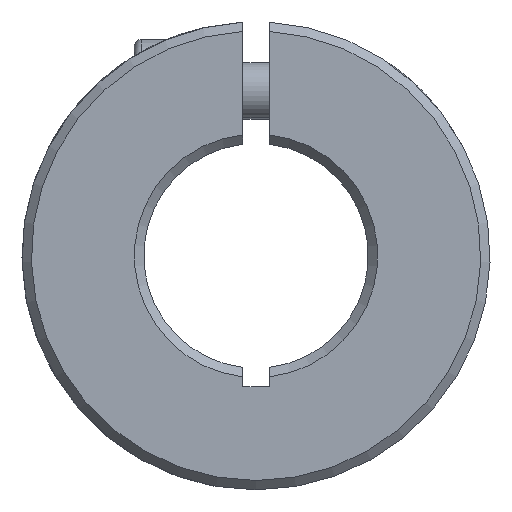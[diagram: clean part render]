
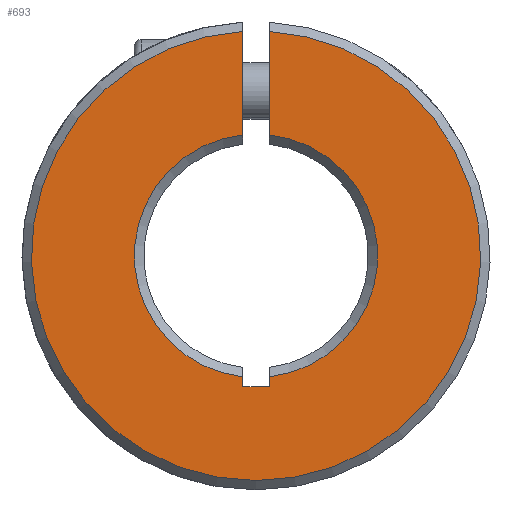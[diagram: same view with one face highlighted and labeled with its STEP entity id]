
A CAD part, front view. The second image highlights one B-rep face of the part: STEP entity #693.
In plain terms, the highlighted planar face has unit normal (0, -1, 0).
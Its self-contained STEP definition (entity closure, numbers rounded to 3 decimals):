
#33 = CARTESIAN_POINT ( 'NONE',  ( -0.7, 0.25, 6.462 ) ) ;
#72 = VECTOR ( 'NONE', #2038, 1000. ) ;
#92 = FACE_OUTER_BOUND ( 'NONE', #1692, .T. ) ;
#100 = VERTEX_POINT ( 'NONE', #2824 ) ;
#120 = CARTESIAN_POINT ( 'NONE',  ( 12.5, 0.25, -50. ) ) ;
#201 = CARTESIAN_POINT ( 'NONE',  ( 0.7, 0.25, -6.462 ) ) ;
#228 = EDGE_CURVE ( 'NONE', #100, #2122, #2374, .T. ) ;
#255 = DIRECTION ( 'NONE',  ( 0., 0., 1. ) ) ;
#350 = CARTESIAN_POINT ( 'NONE',  ( 0.7, 0.25, -7. ) ) ;
#368 = DIRECTION ( 'NONE',  ( 0., 1., 0. ) ) ;
#404 = CARTESIAN_POINT ( 'NONE',  ( -0.7, 0.25, -7. ) ) ;
#496 = CARTESIAN_POINT ( 'NONE',  ( 0.7, 0.25, -7. ) ) ;
#593 = AXIS2_PLACEMENT_3D ( 'NONE', #4902, #3301, #775 ) ;
#613 = AXIS2_PLACEMENT_3D ( 'NONE', #120, #1724, #3398 ) ;
#693 = ADVANCED_FACE ( 'NONE', ( #92 ), #4609, .F. ) ;
#759 = ORIENTED_EDGE ( 'NONE', *, *, #1978, .F. ) ;
#775 = DIRECTION ( 'NONE',  ( 0., 0., 1. ) ) ;
#1117 = ORIENTED_EDGE ( 'NONE', *, *, #4638, .F. ) ;
#1215 = ORIENTED_EDGE ( 'NONE', *, *, #1418, .T. ) ;
#1310 = ORIENTED_EDGE ( 'NONE', *, *, #1839, .F. ) ;
#1345 = AXIS2_PLACEMENT_3D ( 'NONE', #2315, #368, #4828 ) ;
#1349 = LINE ( 'NONE', #3065, #3456 ) ;
#1418 = EDGE_CURVE ( 'NONE', #3151, #2122, #1821, .T. ) ;
#1464 = DIRECTION ( 'NONE',  ( 0., 0., -1. ) ) ;
#1492 = ORIENTED_EDGE ( 'NONE', *, *, #5226, .T. ) ;
#1551 = VERTEX_POINT ( 'NONE', #33 ) ;
#1692 = EDGE_LOOP ( 'NONE', ( #5001, #4012, #1117, #1310, #759, #1492, #2000, #1215 ) ) ;
#1724 = DIRECTION ( 'NONE',  ( 0., 1., 0. ) ) ;
#1774 = VERTEX_POINT ( 'NONE', #3326 ) ;
#1794 = CARTESIAN_POINT ( 'NONE',  ( -0.7, 0.25, 11.98 ) ) ;
#1821 = CIRCLE ( 'NONE', #2247, 12. ) ;
#1839 = EDGE_CURVE ( 'NONE', #5138, #1774, #3361, .T. ) ;
#1880 = CARTESIAN_POINT ( 'NONE',  ( -0.7, 0.25, -7. ) ) ;
#1978 = EDGE_CURVE ( 'NONE', #4581, #5138, #3599, .T. ) ;
#2000 = ORIENTED_EDGE ( 'NONE', *, *, #5111, .F. ) ;
#2038 = DIRECTION ( 'NONE',  ( 0., 0., -1. ) ) ;
#2122 = VERTEX_POINT ( 'NONE', #2488 ) ;
#2247 = AXIS2_PLACEMENT_3D ( 'NONE', #4724, #5131, #255 ) ;
#2280 = VERTEX_POINT ( 'NONE', #201 ) ;
#2315 = CARTESIAN_POINT ( 'NONE',  ( 0., 0.25, 0. ) ) ;
#2374 = LINE ( 'NONE', #350, #3498 ) ;
#2488 = CARTESIAN_POINT ( 'NONE',  ( 0.7, 0.25, 11.98 ) ) ;
#2612 = CARTESIAN_POINT ( 'NONE',  ( -0.7, 0.25, -6.462 ) ) ;
#2824 = CARTESIAN_POINT ( 'NONE',  ( 0.7, 0.25, 6.462 ) ) ;
#2922 = VECTOR ( 'NONE', #3394, 1000. ) ;
#3065 = CARTESIAN_POINT ( 'NONE',  ( 0.7, 0.25, -7. ) ) ;
#3151 = VERTEX_POINT ( 'NONE', #1794 ) ;
#3301 = DIRECTION ( 'NONE',  ( 0., 1., 0. ) ) ;
#3326 = CARTESIAN_POINT ( 'NONE',  ( 0.7, 0.25, -7. ) ) ;
#3361 = LINE ( 'NONE', #496, #2922 ) ;
#3394 = DIRECTION ( 'NONE',  ( 1., 0., 0. ) ) ;
#3398 = DIRECTION ( 'NONE',  ( 0., 0., 1. ) ) ;
#3456 = VECTOR ( 'NONE', #4721, 1000. ) ;
#3498 = VECTOR ( 'NONE', #4022, 1000. ) ;
#3599 = LINE ( 'NONE', #3995, #3834 ) ;
#3832 = EDGE_CURVE ( 'NONE', #100, #2280, #3864, .T. ) ;
#3834 = VECTOR ( 'NONE', #1464, 1000. ) ;
#3864 = CIRCLE ( 'NONE', #1345, 6.5 ) ;
#3995 = CARTESIAN_POINT ( 'NONE',  ( -0.7, 0.25, -7. ) ) ;
#4012 = ORIENTED_EDGE ( 'NONE', *, *, #3832, .T. ) ;
#4022 = DIRECTION ( 'NONE',  ( 0., 0., 1. ) ) ;
#4106 = LINE ( 'NONE', #404, #72 ) ;
#4303 = CIRCLE ( 'NONE', #593, 6.5 ) ;
#4581 = VERTEX_POINT ( 'NONE', #2612 ) ;
#4609 = PLANE ( 'NONE',  #613 ) ;
#4638 = EDGE_CURVE ( 'NONE', #1774, #2280, #1349, .T. ) ;
#4721 = DIRECTION ( 'NONE',  ( 0., 0., 1. ) ) ;
#4724 = CARTESIAN_POINT ( 'NONE',  ( 0., 0.25, 0. ) ) ;
#4828 = DIRECTION ( 'NONE',  ( 0., 0., 1. ) ) ;
#4902 = CARTESIAN_POINT ( 'NONE',  ( 0., 0.25, 0. ) ) ;
#5001 = ORIENTED_EDGE ( 'NONE', *, *, #228, .F. ) ;
#5111 = EDGE_CURVE ( 'NONE', #3151, #1551, #4106, .T. ) ;
#5131 = DIRECTION ( 'NONE',  ( 0., -1., 0. ) ) ;
#5138 = VERTEX_POINT ( 'NONE', #1880 ) ;
#5226 = EDGE_CURVE ( 'NONE', #4581, #1551, #4303, .T. ) ;
